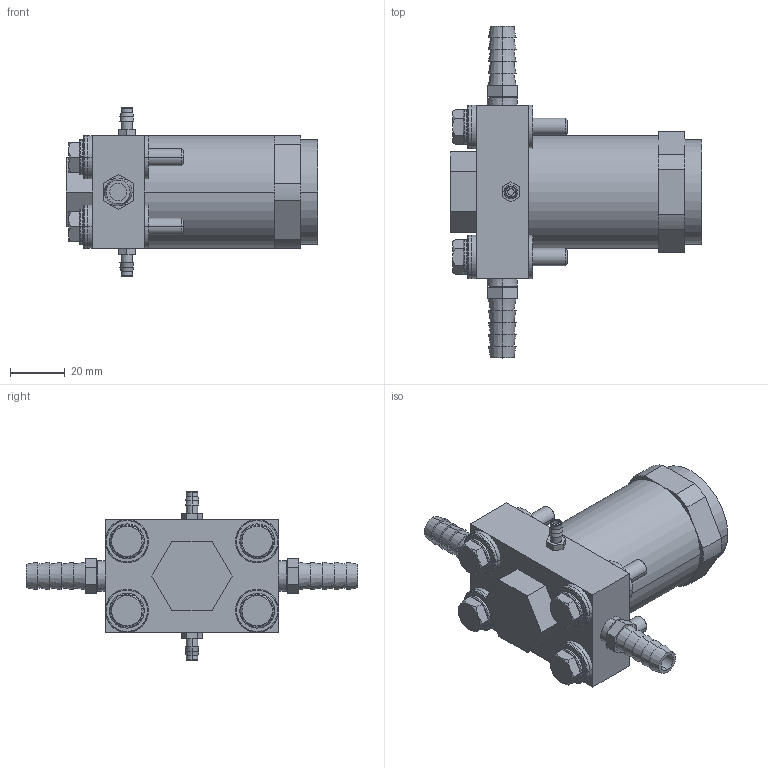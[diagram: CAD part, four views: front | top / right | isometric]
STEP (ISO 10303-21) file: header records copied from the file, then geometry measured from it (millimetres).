
FILE_DESCRIPTION((''),'2;1');
FILE_NAME('UKR4_ASM','2017-08-24T',('jennifer.elliott'),('CenterLine (Windsor) Ltd - Automation Components Division'),'PRO/ENGINEER BY PARAMETRIC TECHNOLOGY CORPORATION, 2015030','PRO/ENGINEER BY PARAMETRIC TECHNOLOGY CORPORATION, 2015030','');
FILE_SCHEMA(('AUTOMOTIVE_DESIGN { 1 0 10303 214 1 1 1 1 }'));
Length unit declared in the file: inch
Products named in the file (31): PRT0584; PRT0585; PRT0586; PRT0587; PRT0588; PRT0589; PRT0590; PRT0591; PRT0592; ASM0004_ASM; PRT0593; PRT0594; PRT0595; PRT0596; PRT0597; PRT0598; PRT0599; PRT0600; PRT0601; PRT0602; PRT0603; PRT0604; PRT0605; PRT0606; PRT0607; PRT0608; PRT0609; PRT0610; PRT0611; PRT0612; UKR4_ASM
Assembly tree (30 placements, depth 3):
  UKR4_ASM
    PRT0584
    PRT0585
    PRT0586
    PRT0587
    PRT0588
    ASM0004_ASM
      PRT0589
      PRT0590
      PRT0591
      PRT0592
    PRT0593
    PRT0594
    PRT0595
    PRT0596
    PRT0597
    PRT0598
    PRT0599
    PRT0600
    PRT0601
    PRT0602
    PRT0603
    PRT0604
    PRT0605
    PRT0606
    PRT0607
    PRT0608
    PRT0609
    PRT0610
    PRT0611
    PRT0612
Bounding box: 92.08 x 121.41 x 61.9 mm (x, y, z)
Volume: 151002.5 mm3; surface area: 46886.7 mm2
Topology: 29 solids, 29 shells, 352 faces, 790 edges, 520 vertices
Faces by surface type: plane 158, cylinder 98, cone 64, torus 32
Entity records: 12265 total; most frequent: CARTESIAN_POINT 2267, DIRECTION 1920, ORIENTED_EDGE 1580, AXIS2_PLACEMENT_3D 801, EDGE_CURVE 790, VERTEX_POINT 520, EDGE_LOOP 408, CIRCLE 384
